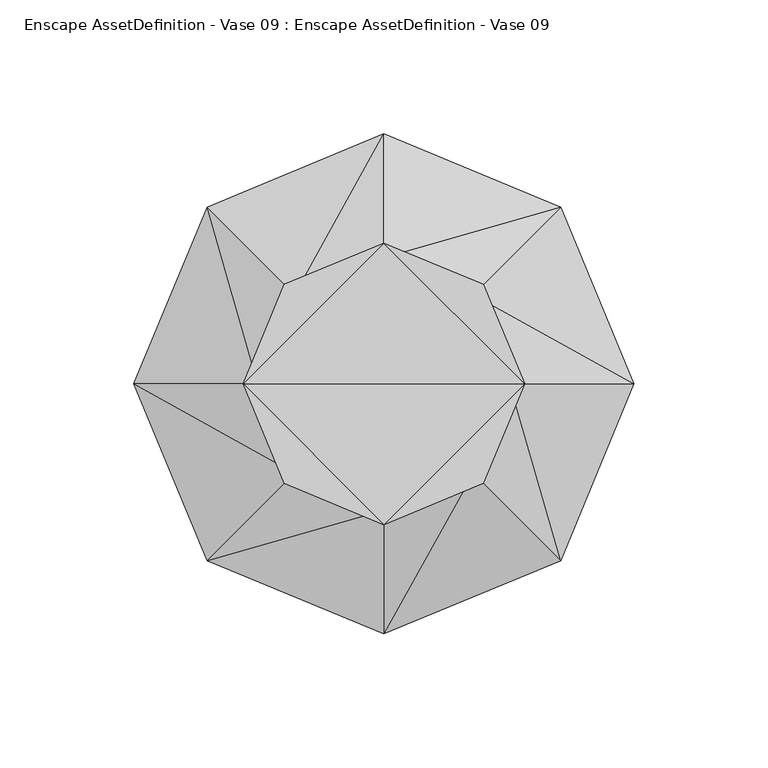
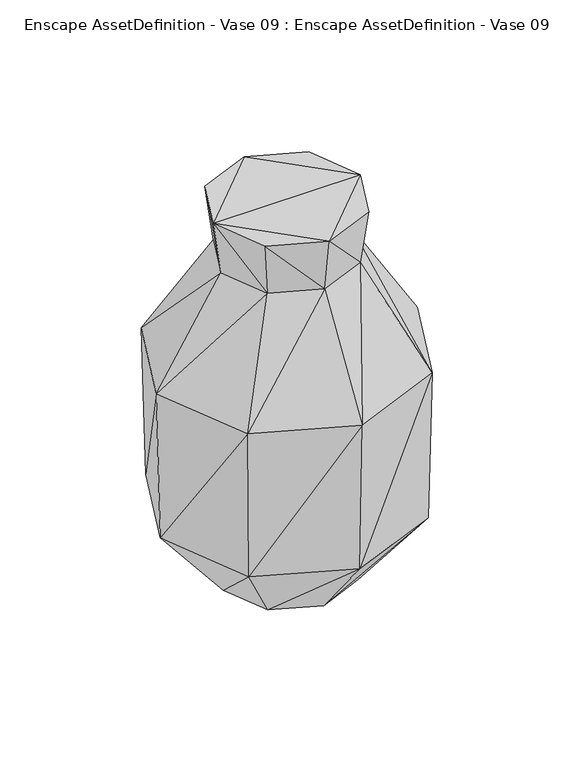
"""IFC4 building model written with IfcOpenShell, lengths in millimetres: geographic element geometry, Enscape AssetDefinition - Vase 09 : Enscape AssetDefinition - Vase 09."""

from ifc_helpers import new_model, si_unit, origin, place, context, project, spatial, faceted_brep, source, transform, mapped, element, save


def enscape_assetdefinition_vase_09_enscape_assetdefinition_vase_83b714b2(model_context):
    return source(origin(), model_context, "Body", "Brep", [
        faceted_brep([(90.2060121, 0.0, 55.2640036), (45.2530049, 0.0, 0.0), (63.7000054, 63.9920011, 55.2640036), (31.9130011, 32.2050005, 0.0), (31.9130011, -32.2050005, 0.0), (-0.292, 90.4980078, 55.2640036), (65.7040104, 65.9960061, 165.2510166), (-0.292, 93.3320075, 165.2510166), (93.0400044, 0.0, 165.2510166), (63.7000054, -63.9920011, 55.2640036), (32.9820029, 33.2740024, 240.1690036), (-0.292, 47.0570028, 240.1690036), (-66.2880018, 65.9960061, 165.2510166), (-33.5660018, 33.2740024, 240.1690036), (36.8610024, 37.1530019, 279.57201), (-0.292, 52.5420047, 279.57201), (46.7650034, 0.0, 240.1690036), (52.2500016, 0.0, 279.57201), (-37.4450013, 37.1530019, 279.57201), (-52.8340042, 0.0, 279.57201), (-47.3490022, 0.0, 240.1690036), (-33.5660018, -33.2740024, 240.1690036), (-37.4450013, -37.1530019, 279.57201), (-0.292, -52.5420047, 279.57201), (36.8610024, -37.1530019, 279.57201), (-0.292, -47.0570028, 240.1690036), (32.9820029, -33.2740024, 240.1690036), (-93.6240107, 0.0, 165.2510166), (-66.2880018, -65.9960061, 165.2510166), (-64.2840043, 63.9920011, 55.2640036), (-90.790011, 0.0, 55.2640036), (-64.2840043, -63.9920011, 55.2640036), (-0.292, -93.3320075, 165.2510166), (-0.292, -90.4980078, 55.2640036), (65.7040104, -65.9960061, 165.2510166), (-45.8370037, 0.0, 0.0), (-32.4970037, -32.2050005, 0.0), (-32.4970037, 32.2050005, 0.0), (-0.292, -45.5450043, 0.0), (-0.292, 45.5450043, 0.0)], [[[0, 1, 2]], [[3, 1, 4]], [[2, 1, 3]], [[0, 4, 1]], [[2, 3, 5]], [[6, 2, 7]], [[6, 0, 2]], [[7, 2, 5]], [[8, 0, 6]], [[9, 4, 0]], [[8, 9, 0]], [[10, 6, 11]], [[10, 8, 6]], [[11, 6, 7]], [[7, 5, 12]], [[11, 7, 13]], [[13, 7, 12]], [[14, 10, 11]], [[15, 11, 13]], [[14, 11, 15]], [[16, 8, 10]], [[17, 16, 10]], [[17, 10, 14]], [[17, 14, 15]], [[15, 13, 18]], [[19, 15, 18]], [[17, 15, 19]], [[13, 12, 20]], [[18, 13, 20]], [[18, 20, 19]], [[19, 20, 21]], [[19, 21, 22]], [[23, 19, 22]], [[17, 19, 23]], [[24, 16, 17]], [[17, 23, 24]], [[23, 25, 26]], [[22, 25, 23]], [[23, 26, 24]], [[22, 21, 25]], [[20, 27, 21]], [[21, 28, 25]], [[21, 27, 28]], [[20, 12, 27]], [[12, 29, 27]], [[27, 30, 28]], [[27, 29, 30]], [[28, 31, 32]], [[28, 30, 31]], [[25, 28, 32]], [[25, 32, 26]], [[32, 33, 34]], [[32, 31, 33]], [[26, 32, 34]], [[30, 35, 31]], [[31, 36, 33]], [[31, 35, 36]], [[29, 37, 30]], [[30, 37, 35]], [[37, 36, 35]], [[33, 36, 38]], [[36, 4, 38]], [[3, 36, 37]], [[3, 4, 36]], [[33, 38, 9]], [[34, 33, 9]], [[9, 38, 4]], [[34, 9, 8]], [[16, 34, 8]], [[26, 34, 16]], [[24, 26, 16]], [[5, 3, 39]], [[3, 37, 39]], [[5, 39, 29]], [[29, 39, 37]], [[12, 5, 29]]]),
    ])


if __name__ == "__main__":
    model = new_model("IFC4")
    model_context = context("Model", 3, world=origin())
    ifc_project = project(units=[si_unit("LENGTHUNIT", "METRE", prefix="MILLI")], contexts=[model_context])
    site = spatial("IfcSite", under=ifc_project)
    building = spatial("IfcBuilding", under=site)
    placement = place(None, origin())
    enscape_assetdefinition_vase_09_enscape_assetdefinition_vase_shape = enscape_assetdefinition_vase_09_enscape_assetdefinition_vase_83b714b2(model_context)
    element("IfcGeographicElement", 1, ObjectType="Enscape AssetDefinition - Vase 09 : Enscape AssetDefinition - Vase 09", at=placement, inside=building, context=model_context, shape_type="MappedRepresentation", body=[
        mapped(enscape_assetdefinition_vase_09_enscape_assetdefinition_vase_shape, transform((0.0, 0.0, 0.0), x_axis=(1.0, 0.0, 0.0), y_axis=(0.0, 1.0, 0.0), z_axis=(0.0, 0.0, 1.0))),
    ])
    save(model, "model.ifc")
